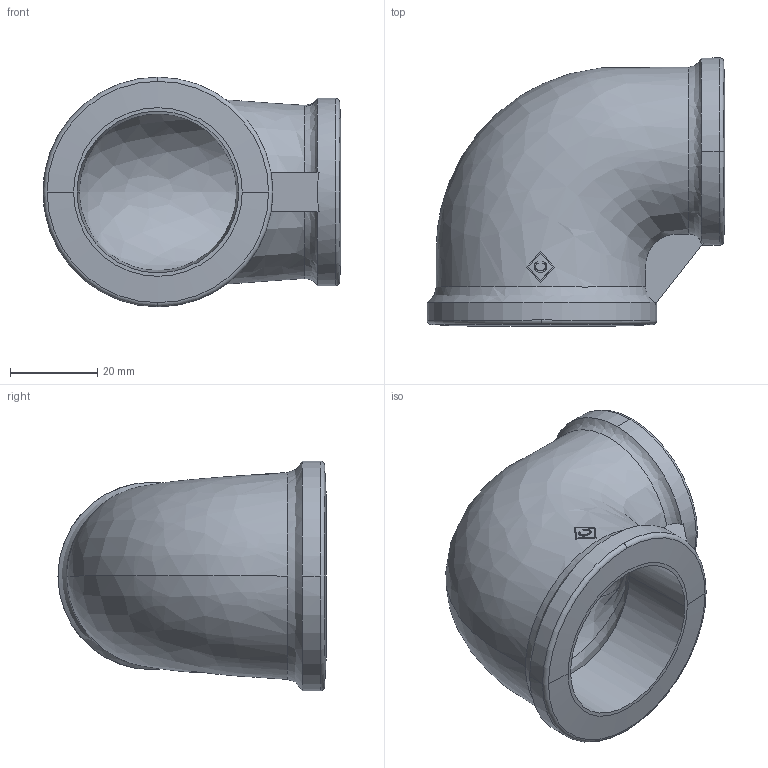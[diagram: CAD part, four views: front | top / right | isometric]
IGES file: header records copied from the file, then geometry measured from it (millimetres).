
Global section: file name: No Iges File Name specified; native system: AutoDesk Inventor R12.0; preprocessor: AutoDesk Inventor Iges Exporter R12.0; date: 20090915.112314; units: millimetre
Bounding box: 68.35 x 61.5 x 52.7 mm (x, y, z)
Volume: 43252.2 mm3; surface area: 20442.1 mm2
Topology: 1 solids, 1 shells, 49 faces, 161 edges, 117 vertices
Faces by surface type: bspline 18, plane 15, revolution 4, cone 4, torus 4, cylinder 4
